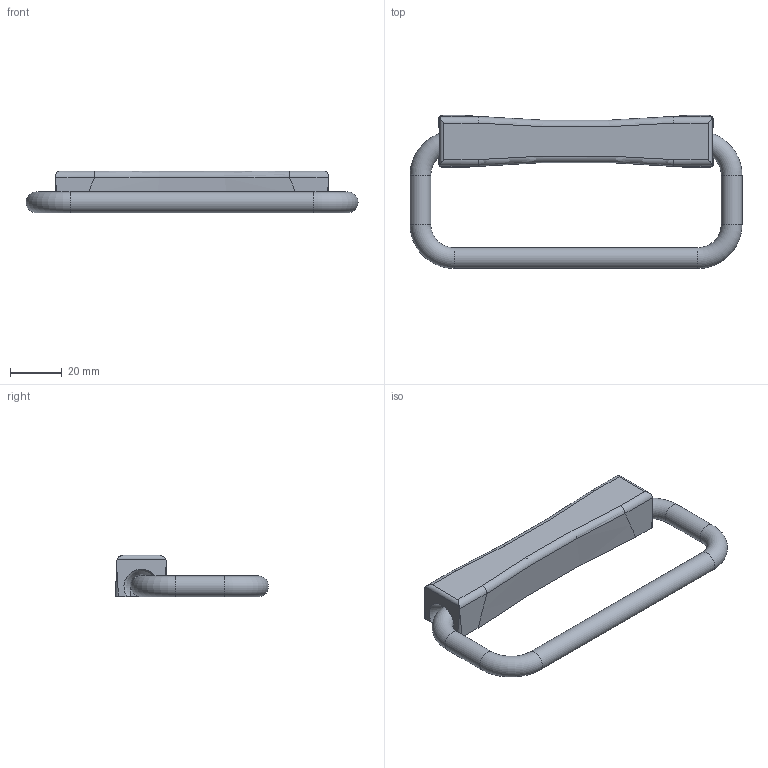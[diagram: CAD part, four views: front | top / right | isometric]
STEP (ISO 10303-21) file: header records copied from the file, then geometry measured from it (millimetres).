
FILE_DESCRIPTION( ( 'STEP AP203' ), '1' );
FILE_NAME( 'C:/Temp/Ganter_Step_05_03_2020/data/1_2/gn425_9/Stainless Steel-Folding handle GN 425.9-120-NI-A-4-GS (deactivated).stp', '2020-03-05T10:14:41', ( 'License CC BY-ND 4.0' ), ( 'CADENAS' ), ' ', 'PARTsolutions', ' ' );
FILE_SCHEMA( ( 'CONFIG_CONTROL_DESIGN' ) );
Length unit declared in the file: millimetre
Products named in the file (3): Stainless Steel-Folding handle GN 425.9-120-NI-A-4-GS (deactivated); _Edelstahl-Klappgriff GN 425.9-120-NI-A-4-GS (zugeklappt)-1; _Edelstahl-Klappgriff GN 425.9-120-NI-A-4-GS (zugeklappt)-2
Assembly tree (2 placements, depth 2):
  Stainless Steel-Folding handle GN 425.9-120-NI-A-4-GS (deactivated)
    _Edelstahl-Klappgriff GN 425.9-120-NI-A-4-GS (zugeklappt)-1
    _Edelstahl-Klappgriff GN 425.9-120-NI-A-4-GS (zugeklappt)-2
Bounding box: 128 x 59 x 16 mm (x, y, z)
Volume: 38417.5 mm3; surface area: 14347.6 mm2
Topology: 2 solids, 2 shells, 57 faces, 150 edges, 97 vertices
Faces by surface type: plane 24, cylinder 21, torus 8, cone 4
Full cylindrical faces by diameter (mm): 4.917 x2, 8 x5
Entity records: 1992 total; most frequent: CARTESIAN_POINT 566, DIRECTION 274, ORIENTED_EDGE 260, EDGE_CURVE 130, AXIS2_PLACEMENT_3D 106, VERTEX_POINT 94, EDGE_LOOP 72, FACE_OUTER_BOUND 68
